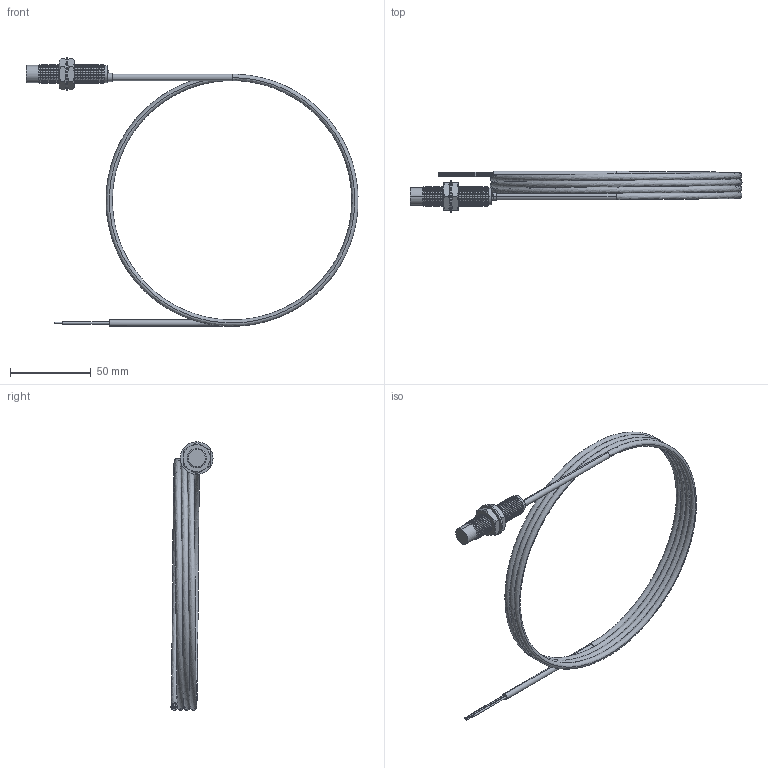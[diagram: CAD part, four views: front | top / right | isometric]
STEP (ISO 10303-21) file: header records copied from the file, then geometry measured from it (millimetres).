
FILE_DESCRIPTION (( 'STEP AP203' ), '1' );
FILE_NAME ('90-29417-088.STEP', '2016-05-26T13:05:41', ( 'Sam' ), ( 'Spade' ), 'SwSTEP 2.0', 'SolidWorks 2002296', '' );
FILE_SCHEMA (( 'CONFIG_CONTROL_DESIGN' ));
Length unit declared in the file: inch
Products named in the file (14): 90-29417-088; Imported51; Imported52; Imported40; Imported43; Imported42; Imported41; Imported47; Imported46; Imported45; Imported44; Imported50; Imported49; Imported48
Assembly tree (13 placements, depth 2):
  90-29417-088
    Imported42
    Imported41
    Imported49
    Imported43
    Imported44
    Imported52
    Imported40
    Imported46
    Imported48
    Imported45
    Imported50
    Imported51
    Imported47
Bounding box: 206.01 x 26.19 x 166.58 mm (x, y, z)
Volume: 29131 mm3; surface area: 28389 mm2
Topology: 13 solids, 13 shells, 428 faces, 905 edges, 500 vertices
Faces by surface type: cone 227, cylinder 120, plane 77, bspline 4
Entity records: 13774 total; most frequent: CARTESIAN_POINT 3014, DIRECTION 2116, ORIENTED_EDGE 1806, EDGE_CURVE 903, AXIS2_PLACEMENT_3D 836, VERTEX_POINT 500, LINE 444, VECTOR 444
